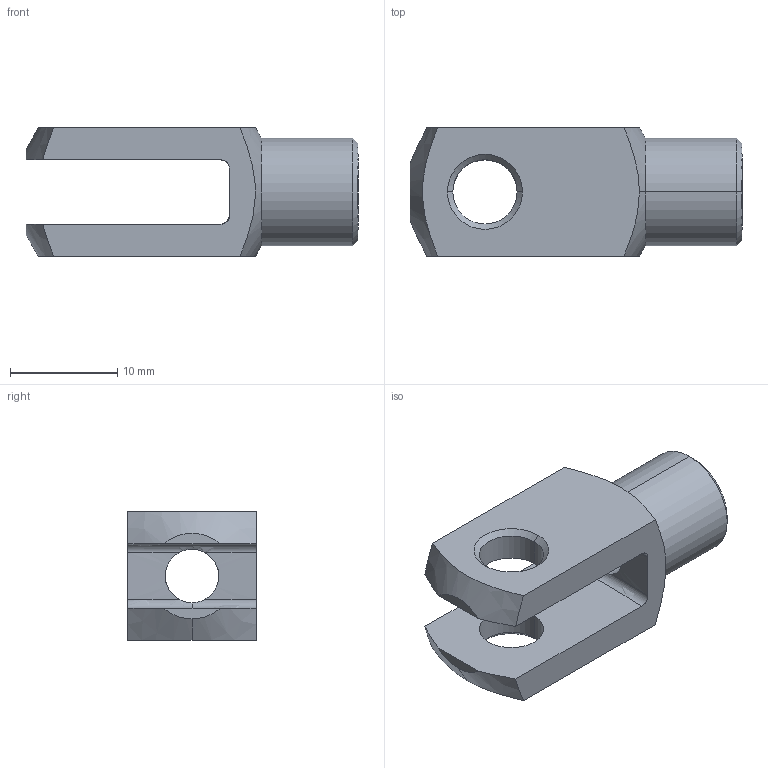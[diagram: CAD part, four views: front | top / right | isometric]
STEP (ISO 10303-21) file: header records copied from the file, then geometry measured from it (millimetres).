
FILE_DESCRIPTION (( 'STEP AP214' ), '1' );
FILE_NAME ('11.G612.STEP', '2017-10-30T09:10:38', ( '' ), ( '' ), 'SwSTEP 2.0', 'SolidWorks 2016', '' );
FILE_SCHEMA (( 'AUTOMOTIVE_DESIGN' ));
Length unit declared in the file: millimetre
Products named in the file (1): 11.G612
Bounding box: 31 x 12 x 12 mm (x, y, z)
Volume: 1972.3 mm3; surface area: 1862.2 mm2
Topology: 1 solids, 1 shells, 35 faces, 91 edges, 57 vertices
Faces by surface type: cone 13, cylinder 10, plane 9, torus 3
Entity records: 1257 total; most frequent: CARTESIAN_POINT 379, ORIENTED_EDGE 182, DIRECTION 169, EDGE_CURVE 91, AXIS2_PLACEMENT_3D 69, VERTEX_POINT 57, EDGE_LOOP 40, ADVANCED_FACE 35
